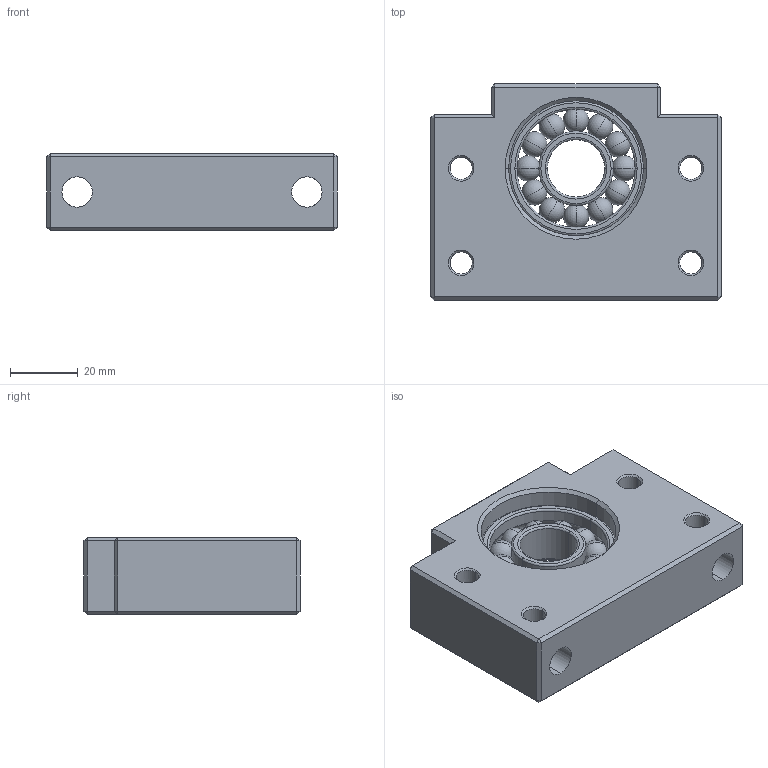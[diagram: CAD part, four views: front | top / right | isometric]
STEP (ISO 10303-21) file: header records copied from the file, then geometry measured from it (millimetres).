
FILE_DESCRIPTION (( 'STEP AP203' ), '1' );
FILE_NAME ('BF17²Õ¦X¥ó.STEP', '2017-12-27T08:16:02', ( '' ), ( '' ), 'SwSTEP 2.0', 'SolidWorks 2017', '' );
FILE_SCHEMA (( 'CONFIG_CONTROL_DESIGN' ));
Length unit declared in the file: millimetre
Products named in the file (1): BF17組合件
Bounding box: 86 x 64 x 23 mm (x, y, z)
Surface area: 26353.5 mm2 (no closed solid volume)
Topology: 0 solids, 15 shells, 152 faces, 388 edges, 236 vertices
Faces by surface type: plane 50, cylinder 36, cone 24, sphere 24, torus 18
Entity records: 4665 total; most frequent: CARTESIAN_POINT 1225, DIRECTION 744, ORIENTED_EDGE 648, EDGE_CURVE 328, AXIS2_PLACEMENT_3D 295, VERTEX_POINT 200, EDGE_LOOP 172, LINE 154
